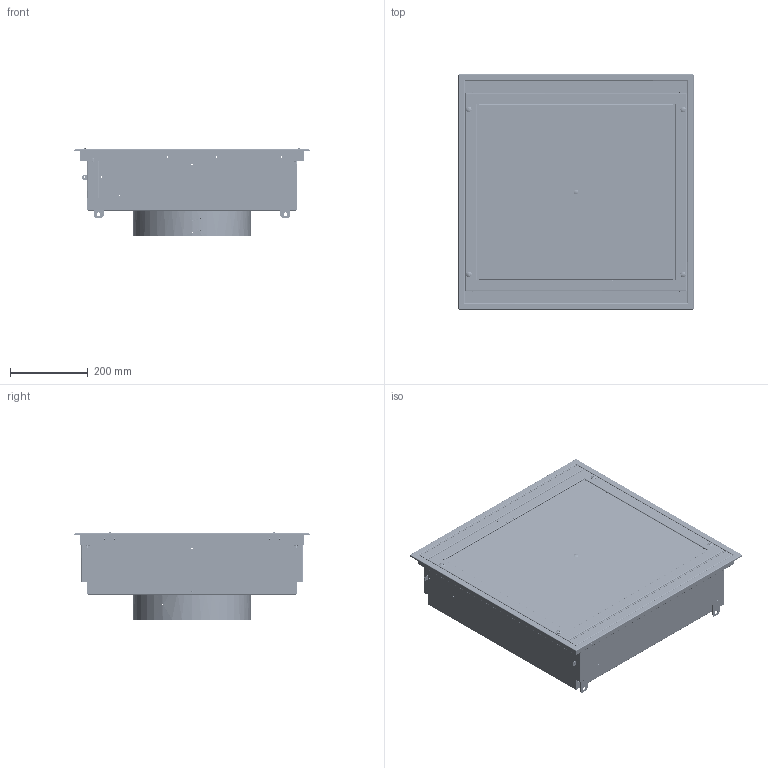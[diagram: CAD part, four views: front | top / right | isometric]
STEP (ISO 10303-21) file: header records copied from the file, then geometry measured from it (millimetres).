
FILE_DESCRIPTION (( 'STEP AP214' ), '1' );
FILE_NAME ('24 X 24_SSLF_LED.STEP', '2025-07-25T18:46:00', ( '' ), ( '' ), 'SwSTEP 2.0', 'SolidWorks 2024', '' );
FILE_SCHEMA (( 'AUTOMOTIVE_DESIGN' ));
Length unit declared in the file: inch
Products named in the file (57): 060525-LFs_H1B8_L05; 060525-LFs_H1B9_L05; 060525-LFs_H1V7_L05_WASHER, TEFLON: 0.50"OD x 0.25"ID x 0.025"th; 060525-LFs_X6B2_L05; 060525-LFs_SAFETYCABLE-ASSY_L05; 060525-LFs_H1V20_L05; 060525-LFs_H1T3_L05_GROMMET, BLADE; 060525-LFs_R5Z11_L05; 060525-LFs_H2E5_L05; 060525-LFs_H1A2_L05; 060525-LFs_K2A2_L05; 060525-LFs_FC2B-A3_L05; 060525-LFs_H2G12_L05; 060525-LFs_R2B1-SUB_L05; 060525-LFs_H2E2_L05_WELD CLIP, BOB FRAME; 060525-LFs_H1E3_L05; 060525-LFs_P1B1B-SUB_L05; 060525-LFs_PLASTER-SUB_L05; 060525-LFs_X6BE_L05; 060525-LFs_FP1B20-A2_L05; 060525-LFs_K2A1_L05; 060525-LFs_H1H44_L05; 060525-LFs_P1B1B_L05; 060525-LFs_FC2B_L05; 24 X 24_SSLF_LED; 060525-LFs_X6BD_L05; 060525-LFs_X6BB_L05; 060525-LFs_SM3X4_L05; 060525-LFs_H1E1_L05; 060525-LFs_FP1B20-A4_L05; 060525-LFs_FACE-SUB_L05; 060525-LFs_FP1B20-A3_L05; 060525-LFs_FC2B-A4_L05; 060525-LFs_Light Module-SUB_L05; 060525-LFs_H1M8_L05_H1M8; 060525-LFs_C1C1C112_L05; 060525-LFs_H1F1_L05_1_4 TURN SPRING; 060525-LFs_SM2X3_L05; 060525-LFs_X6BA1_L05; 060525-LFs_SSRD_L05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
Assembly tree (102 placements, depth 5):
  24 X 24_SSLF_LED
    060525-LFs_PLASTER-SUB_L05
      060525-LFs_FC2B_L05
        060525-LFs_FC2B-A1_L05
        060525-LFs_FC2B-A2_L05
        060525-LFs_FC2B-A3_L05
        060525-LFs_FC2B-A4_L05
        060525-LFs_H2E2_L05_WELD CLIP, BOB FRAME  x4
        060525-LFs_H2G12_L05  x4
        060525-LFs_H1F1_L05_1_4 TURN SPRING  x4
      060525-LFs_H1V20_L05  x2
      060525-LFs_X6BD_L05  x2
      060525-LFs_H1V10_L05_GROMMET - 0.387"ID; 1_2"HOLE; BLACK  x2
      060525-LFs_Light Module-SUB_L05  x2
        060525-LFs_X6BA1_L05
        060525-LFs_X6BB_L05
        060525-LFs_R5Z11_L05
        060525-LFs_H1M8_L05_H1M8
        060525-LFs_H1B9_L05
        060525-LFs_H1D11_L05_91020A530
        060525-LFs_X6B2_L05
        060525-LFs_H1H44_L05
    060525-LFs_FACE-SUB_L05
      060525-LFs_FP1B-SUB_L05
        060525-LFs_FP1B20-A1_L05
        060525-LFs_FP1B20-A2_L05
        060525-LFs_FP1B20-A3_L05
        060525-LFs_FP1B20-A4_L05
        060525-LFs_H2E1_L05_WELD CLIP; 40º BEVEL FRAME  x4
        060525-LFs_H1E1_L05  x4
        060525-LFs_H1E2_L05  x4
        060525-LFs_SAFETYCABLE-ASSY_L05  x2
          060525-LFs_H1N2_L05
          060525-LFs_H1E3_L05
        060525-LFs_H1Z24_L05
    060525-LFs_PERF-SUB_L05
      060525-LFs_H1T2_L05
      060525-LFs_R2B1-SUB_L05
        060525-LFs_R2B1_L05
    060525-LFs_PLENUM-SUB_L05
      060525-LFs_P1B1B-SUB_L05
        060525-LFs_P1B1B_L05
        060525-LFs_H2E5_L05  x4
        060525-LFs_X6BE_L05  x2
        060525-LFs_H1V20_L05  x2
    060525-LFs_C1C1C112_L05
    060525-LFs_SSRD_L05
      060525-LFs_H1L1_L05  x4
      060525-LFs_BM5D_L05  x2
      060525-LFs_SM2X3_L05
      060525-LFs_SM3X4_L05
      060525-LFs_H1A2_L05
      060525-LFs_H1B4_L05
      060525-LFs_H1V7_L05_WASHER, TEFLON: 0.50"OD x 0.25"ID x 0.025"th  x2
      060525-LFs_K2A2_L05  x2
      060525-LFs_H1T3_L05_GROMMET, BLADE  x2
      060525-LFs_K2A1_L05
      060525-LFs_H1B8_L05
Bounding box: 603.25 x 603.25 x 223.61 mm (x, y, z)
Volume: 1275803 mm3; surface area: 2869388.4 mm2
Topology: 139 solids, 139 shells, 6556 faces, 16196 edges, 10203 vertices
Faces by surface type: plane 3271, cylinder 1866, cone 696, torus 472, bspline 233, sphere 18
Entity records: 98044 total; most frequent: CARTESIAN_POINT 27948, ORIENTED_EDGE 14146, DIRECTION 13846, EDGE_CURVE 7073, AXIS2_PLACEMENT_3D 4666, LINE 4514, VECTOR 4514, VERTEX_POINT 4498
